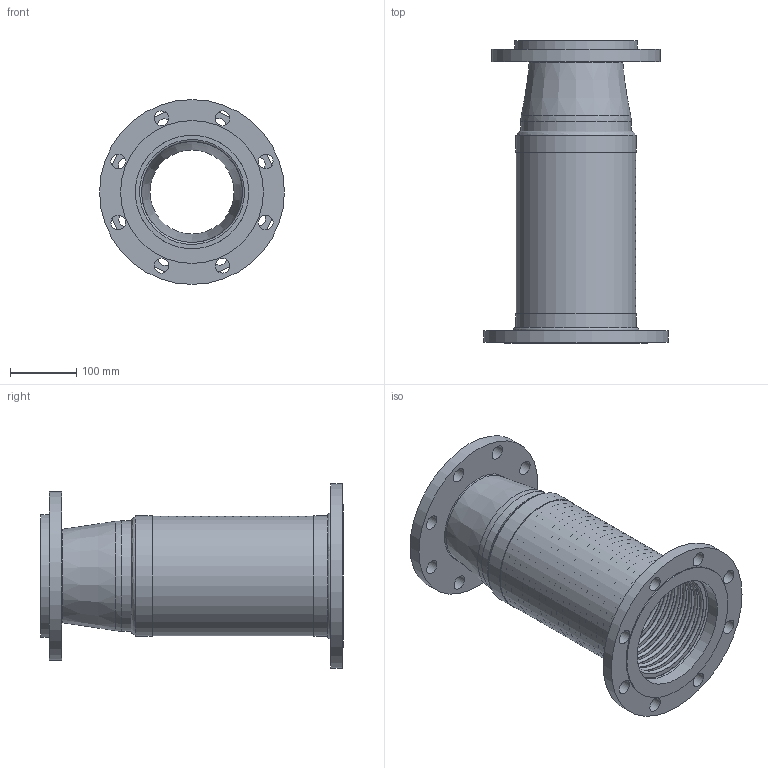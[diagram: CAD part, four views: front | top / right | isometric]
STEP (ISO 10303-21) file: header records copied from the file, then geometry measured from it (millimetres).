
FILE_DESCRIPTION((''),'2;1');
FILE_NAME('C:\2012_Work\Designs\RFFL\RFFL-6x5in.stp','2013-08-19T17:29:19',('KShiels'),(''),'Autodesk Inventor 2012','Autodesk Inventor 2012','');
FILE_SCHEMA(('AUTOMOTIVE_DESIGN { 1 0 10303 214 1 1 1 1 }'));
Length unit declared in the file: inch
Products named in the file (9): RFFL-6x5in; RFFL-6x5in_Welds; A-31000_6in_RFFL-BRAID; A-31000_6in_RFFL-BELLOWS; A-31000_6in_RFFL-BRAID-COLLAR; A-30988_6in-FIXED-FLANGE; A-30989_5in-FLOATING-FLANGE; A-30991_6x5in-REDUCER; A-30990_5in-WASHER
Assembly tree (9 placements, depth 2):
  RFFL-6x5in
    RFFL-6x5in_Welds
    A-31000_6in_RFFL-BRAID
    A-31000_6in_RFFL-BELLOWS
    A-31000_6in_RFFL-BRAID-COLLAR  x2
    A-30988_6in-FIXED-FLANGE
    A-30989_5in-FLOATING-FLANGE
    A-30991_6x5in-REDUCER
    A-30990_5in-WASHER
Bounding box: 279.4 x 457.41 x 279.4 mm (x, y, z)
Volume: 2125885.2 mm3; surface area: 1616241.2 mm2
Topology: 11 solids, 11 shells, 260 faces, 447 edges, 303 vertices
Faces by surface type: plane 116, torus 99, cylinder 36, cone 5, bspline 4
Full cylindrical faces by diameter (mm): 22.225 x16, 127 x1, 140.005 x1, 144.463 x3, 152.4 x1, 166.624 x2, 171.45 x1, 179.07 x3, 180.086 x1, 181.451 x3, 185.738 x1, 215.9 x1, 254 x1, 279.4 x1
Entity records: 6610 total; most frequent: CARTESIAN_POINT 1739, DIRECTION 1072, ORIENTED_EDGE 562, EDGE_LOOP 541, AXIS2_PLACEMENT_3D 536, FACE_BOUND 285, EDGE_CURVE 281, VERTEX_POINT 278
